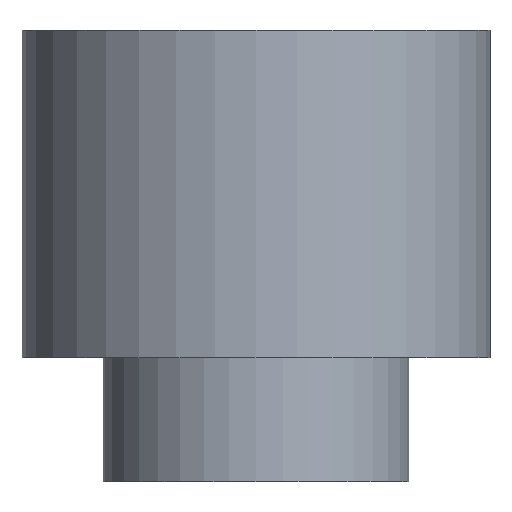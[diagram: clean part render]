
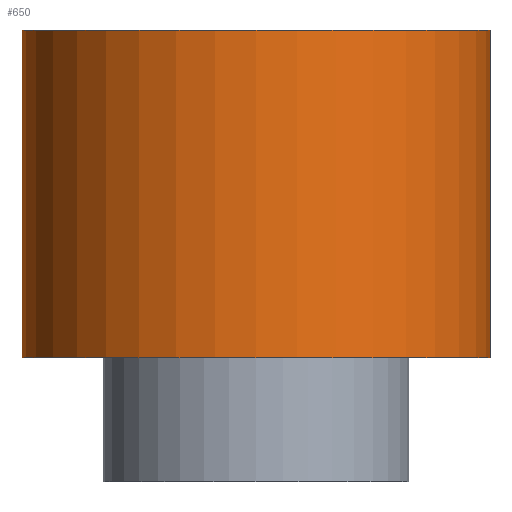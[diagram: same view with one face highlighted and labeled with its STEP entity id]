
A CAD part, front view. The second image highlights one B-rep face of the part: STEP entity #650.
In plain terms, the highlighted cylindrical face has radius 50 mm (diameter 100 mm), a full revolution.
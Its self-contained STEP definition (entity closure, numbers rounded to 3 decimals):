
#152=CYLINDRICAL_SURFACE('',#697,50.);
#163=FACE_BOUND('',#252,.T.);
#202=FACE_OUTER_BOUND('',#251,.T.);
#251=EDGE_LOOP('',(#582));
#252=EDGE_LOOP('',(#583));
#279=CIRCLE('',#698,50.);
#280=CIRCLE('',#699,50.);
#342=VERTEX_POINT('',#1357);
#343=VERTEX_POINT('',#1359);
#422=EDGE_CURVE('',#342,#342,#279,.T.);
#423=EDGE_CURVE('',#343,#343,#280,.T.);
#582=ORIENTED_EDGE('',*,*,#422,.F.);
#583=ORIENTED_EDGE('',*,*,#423,.F.);
#650=ADVANCED_FACE('',(#202,#163),#152,.T.);
#697=AXIS2_PLACEMENT_3D('',#1356,#817,#818);
#698=AXIS2_PLACEMENT_3D('',#1358,#819,#820);
#699=AXIS2_PLACEMENT_3D('',#1360,#821,#822);
#817=DIRECTION('center_axis',(0.,0.,1.));
#818=DIRECTION('ref_axis',(1.,0.,0.));
#819=DIRECTION('center_axis',(0.,0.,1.));
#820=DIRECTION('ref_axis',(1.,0.,0.));
#821=DIRECTION('center_axis',(0.,0.,-1.));
#822=DIRECTION('ref_axis',(1.,0.,0.));
#1356=CARTESIAN_POINT('Origin',(0.,0.,0.));
#1357=CARTESIAN_POINT('',(-50.,0.,35.));
#1358=CARTESIAN_POINT('Origin',(0.,0.,35.));
#1359=CARTESIAN_POINT('',(-50.,0.,-35.));
#1360=CARTESIAN_POINT('Origin',(0.,0.,-35.));
